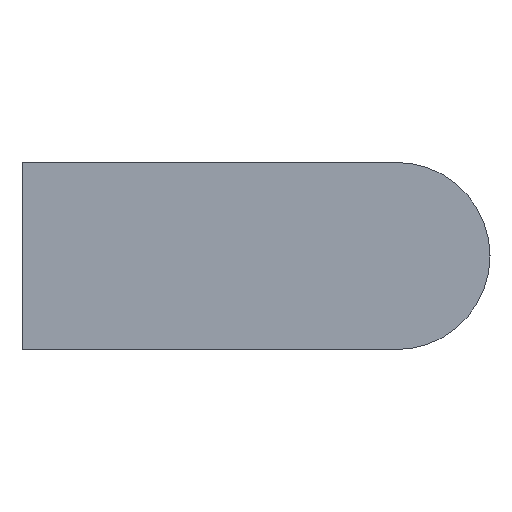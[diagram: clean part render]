
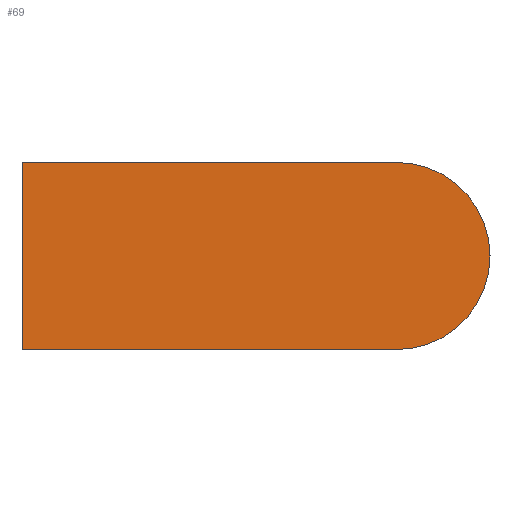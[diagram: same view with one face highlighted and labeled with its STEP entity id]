
A CAD part, left-side view. The second image highlights one B-rep face of the part: STEP entity #69.
In plain terms, the highlighted planar face has unit normal (-1, 0, 0).
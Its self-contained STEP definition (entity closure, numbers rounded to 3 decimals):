
#69 = ADVANCED_FACE( '', ( #143 ), #144, .F. );
#143 = FACE_OUTER_BOUND( '', #220, .T. );
#144 = PLANE( '', #221 );
#220 = EDGE_LOOP( '', ( #349, #350, #351, #352 ) );
#221 = AXIS2_PLACEMENT_3D( '', #353, #354, #355 );
#349 = ORIENTED_EDGE( '', *, *, #441, .F. );
#350 = ORIENTED_EDGE( '', *, *, #451, .F. );
#351 = ORIENTED_EDGE( '', *, *, #412, .F. );
#352 = ORIENTED_EDGE( '', *, *, #456, .F. );
#353 = CARTESIAN_POINT( '', ( -6., -28., 0. ) );
#354 = DIRECTION( '', ( 1., 0., 0. ) );
#355 = DIRECTION( '', ( 0., 0., -1. ) );
#412 = EDGE_CURVE( '', #471, #472, #473, .T. );
#441 = EDGE_CURVE( '', #519, #520, #521, .T. );
#451 = EDGE_CURVE( '', #472, #519, #534, .T. );
#456 = EDGE_CURVE( '', #520, #471, #539, .T. );
#471 = VERTEX_POINT( '', #556 );
#472 = VERTEX_POINT( '', #557 );
#473 = LINE( '', #558, #559 );
#519 = VERTEX_POINT( '', #620 );
#520 = VERTEX_POINT( '', #621 );
#521 = LINE( '', #622, #623 );
#534 = LINE( '', #642, #643 );
#539 = CIRCLE( '', #648, 7. );
#556 = CARTESIAN_POINT( '', ( -6., -28., -7. ) );
#557 = CARTESIAN_POINT( '', ( -6., 0., -7. ) );
#558 = CARTESIAN_POINT( '', ( -6., -28., -7. ) );
#559 = VECTOR( '', #664, 1000. );
#620 = CARTESIAN_POINT( '', ( -6., 0., 7. ) );
#621 = CARTESIAN_POINT( '', ( -6., -28., 7. ) );
#622 = CARTESIAN_POINT( '', ( -6., 0., 7. ) );
#623 = VECTOR( '', #698, 1000. );
#642 = CARTESIAN_POINT( '', ( -6., 0., -7. ) );
#643 = VECTOR( '', #708, 1000. );
#648 = AXIS2_PLACEMENT_3D( '', #712, #713, #714 );
#664 = DIRECTION( '', ( 0., 1., 0. ) );
#698 = DIRECTION( '', ( 0., -1., 0. ) );
#708 = DIRECTION( '', ( 0., 0., 1. ) );
#712 = CARTESIAN_POINT( '', ( -6., -28., 0. ) );
#713 = DIRECTION( '', ( 1., 0., 0. ) );
#714 = DIRECTION( '', ( 0., 0., -1. ) );
